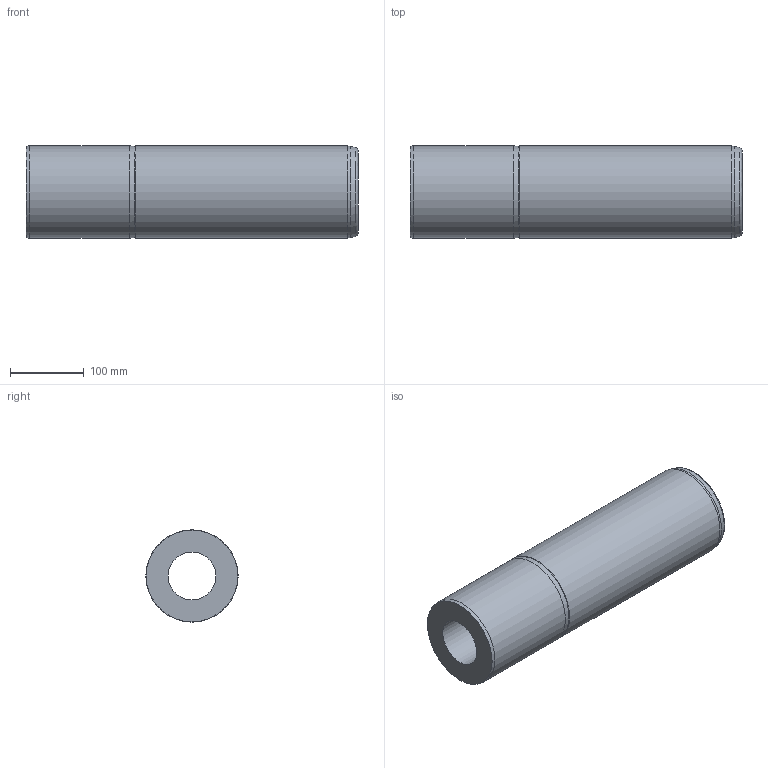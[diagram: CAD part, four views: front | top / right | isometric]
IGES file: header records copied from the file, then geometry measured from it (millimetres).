
Global section: file name: C9F125450.ipt; native system: Autodesk Inventor 2021; preprocessor: unknown; author: SM; date: 20211217.114920; units: millimetre
Bounding box: 450 x 125 x 125 mm (x, y, z)
Volume: 4012964.5 mm3; surface area: 287062.8 mm2
Topology: 1 solids, 1 shells, 16 faces, 41 edges, 28 vertices
Faces by surface type: revolution 5, cone 4, plane 3, cylinder 2, bspline 2
Full cylindrical faces by diameter (mm): 125 x2
